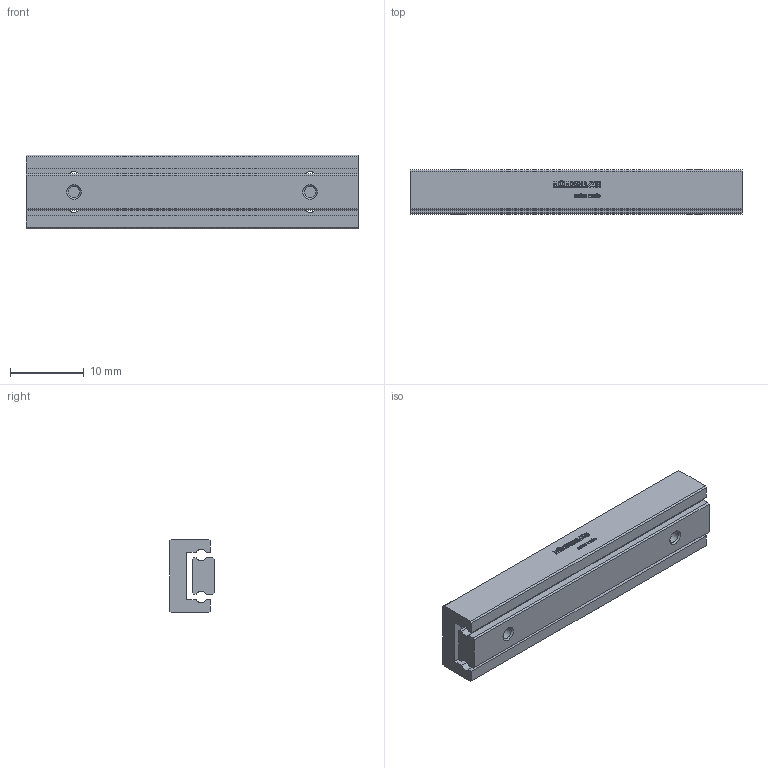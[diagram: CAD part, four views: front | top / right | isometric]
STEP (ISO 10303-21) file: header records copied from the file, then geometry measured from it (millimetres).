
FILE_DESCRIPTION(/* description */ ('STEP AP214'),/* implementation_level */ '2;1');
FILE_NAME(/* name */ 'NDN 1-45.35(0)',/* time_stamp */ '2025-04-16T17:10:23+02:00',/* author */ ('License CC BY-ND 4.0'),/* organization */ ('CADENAS'),/* preprocessor_version */ 'ST-DEVELOPER v19.3',/* originating_system */ 'PARTsolutions',/* authorisation */ ' ');
FILE_SCHEMA (('AUTOMOTIVE_DESIGN {1 0 10303 214 3 1 1}'));
Length unit declared in the file: millimetre
Products named in the file (3): NDN 1-45.35(0); NDN 1-45.35_1; NDN 1-45.35_2
Assembly tree (2 placements, depth 2):
  NDN 1-45.35(0)
    NDN 1-45.35_1
    NDN 1-45.35_2
Bounding box: 45 x 6 x 10 mm (x, y, z)
Volume: 2108.1 mm3; surface area: 2573.7 mm2
Topology: 2 solids, 2 shells, 511 faces, 1432 edges, 952 vertices
Faces by surface type: cylinder 302, plane 201, cone 8
Full cylindrical faces by diameter (mm): 1.567 x6
Entity records: 16723 total; most frequent: DIRECTION 3058, CARTESIAN_POINT 2884, ORIENTED_EDGE 2836, EDGE_CURVE 1418, AXIS2_PLACEMENT_3D 1126, VERTEX_POINT 952, LINE 806, VECTOR 806
